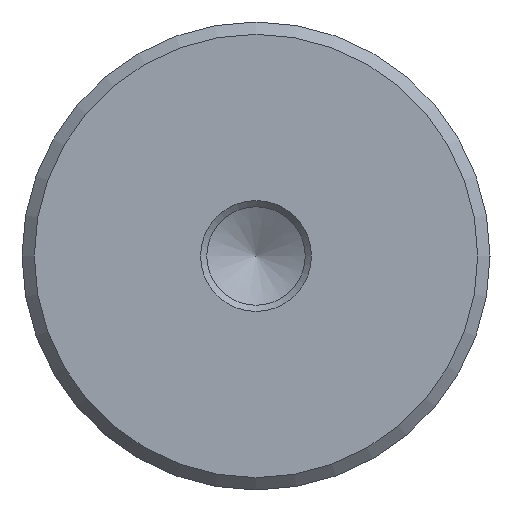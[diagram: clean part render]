
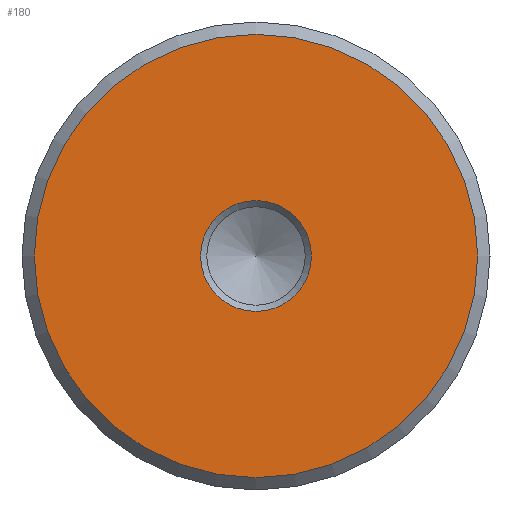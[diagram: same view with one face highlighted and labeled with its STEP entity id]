
A CAD part, left-side view. The second image highlights one B-rep face of the part: STEP entity #180.
In plain terms, the highlighted planar face has unit normal (-1, 0, 0).
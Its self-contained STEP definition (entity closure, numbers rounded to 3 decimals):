
#15=FACE_BOUND('',#40,.T.);
#17=PLANE('',#215);
#27=FACE_OUTER_BOUND('',#39,.T.);
#39=EDGE_LOOP('',(#126));
#40=EDGE_LOOP('',(#127));
#71=CIRCLE('',#214,4.5);
#72=CIRCLE('',#216,18.);
#84=VERTEX_POINT('',#304);
#85=VERTEX_POINT('',#308);
#100=EDGE_CURVE('',#84,#84,#71,.T.);
#101=EDGE_CURVE('',#85,#85,#72,.T.);
#126=ORIENTED_EDGE('',*,*,#101,.F.);
#127=ORIENTED_EDGE('',*,*,#100,.T.);
#180=ADVANCED_FACE('',(#27,#15),#17,.T.);
#214=AXIS2_PLACEMENT_3D('',#306,#247,#248);
#215=AXIS2_PLACEMENT_3D('',#307,#249,#250);
#216=AXIS2_PLACEMENT_3D('',#309,#251,#252);
#247=DIRECTION('center_axis',(1.,0.,0.));
#248=DIRECTION('ref_axis',(0.,0.,-1.));
#249=DIRECTION('center_axis',(-1.,0.,0.));
#250=DIRECTION('ref_axis',(0.,0.,1.));
#251=DIRECTION('center_axis',(1.,0.,0.));
#252=DIRECTION('ref_axis',(0.,0.,-1.));
#304=CARTESIAN_POINT('',(0.,-4.5,0.));
#306=CARTESIAN_POINT('Origin',(0.,0.,0.));
#307=CARTESIAN_POINT('Origin',(0.,18.,0.));
#308=CARTESIAN_POINT('',(0.,-18.,0.));
#309=CARTESIAN_POINT('Origin',(0.,0.,0.));
